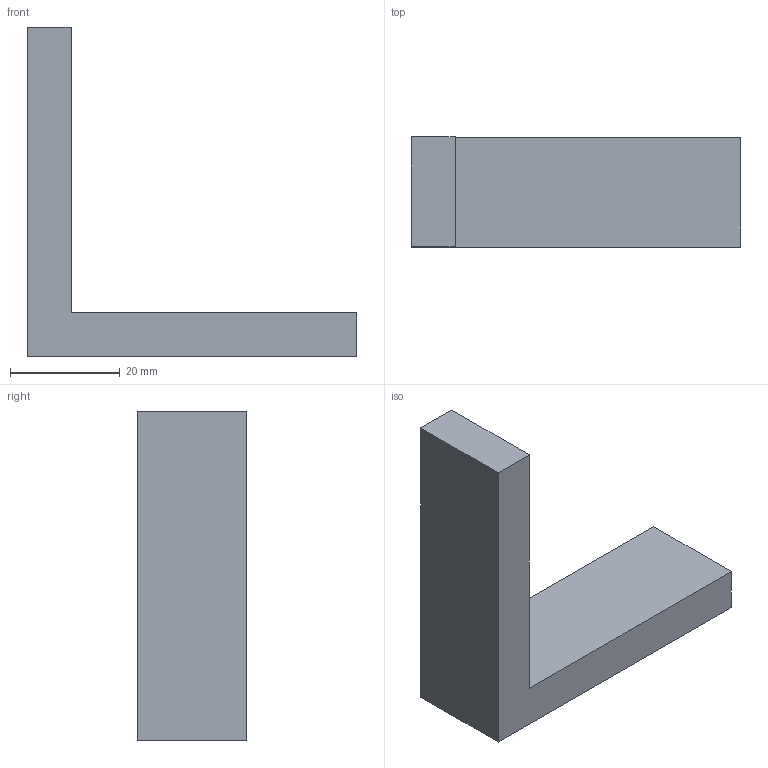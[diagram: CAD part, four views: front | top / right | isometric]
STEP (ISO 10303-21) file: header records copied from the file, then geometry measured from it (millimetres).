
FILE_DESCRIPTION(('Open CASCADE Model'),'2;1');
FILE_NAME('Open CASCADE Shape Model','2026-10-21T16:54:04',('Author'),( 'Open CASCADE'),'Open CASCADE STEP processor 7.9','Open CASCADE 7.9' ,'Unknown');
FILE_SCHEMA(('AUTOMOTIVE_DESIGN { 1 0 10303 214 1 1 1 1 }'));
Length unit declared in the file: millimetre
Products named in the file (1): Open CASCADE STEP translator 7.9 69
Bounding box: 60 x 20 x 60 mm (x, y, z)
Volume: 17920 mm3; surface area: 6592 mm2
Topology: 1 solids, 1 shells, 8 faces, 18 edges, 12 vertices
Faces by surface type: plane 8
Entity records: 466 total; most frequent: CARTESIAN_POINT 75, DIRECTION 72, LINE 54, VECTOR 54, ORIENTED_EDGE 36, PCURVE 36, DEFINITIONAL_REPRESENTATION 36, EDGE_CURVE 18
